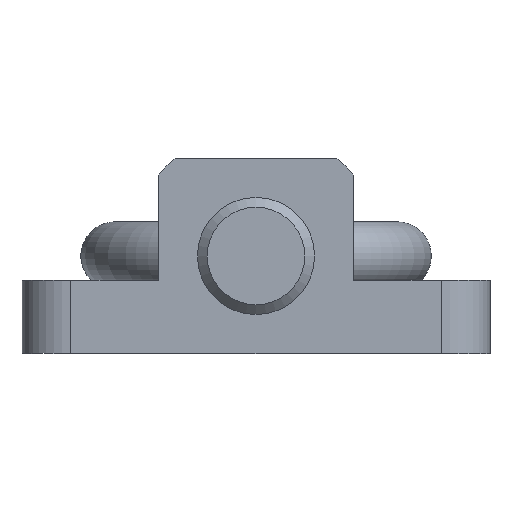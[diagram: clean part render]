
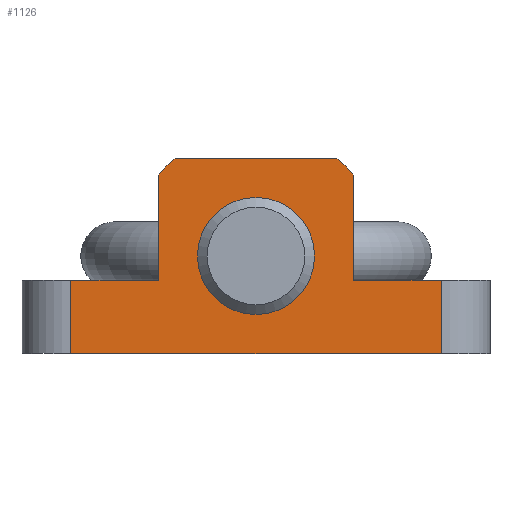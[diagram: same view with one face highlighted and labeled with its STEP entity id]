
A CAD part, front view. The second image highlights one B-rep face of the part: STEP entity #1126.
In plain terms, the highlighted planar face has unit normal (0, -1, 0).
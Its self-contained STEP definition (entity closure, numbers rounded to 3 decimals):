
#50=LINE('',#1777,#150);
#53=LINE('',#1787,#153);
#57=LINE('',#1799,#157);
#64=LINE('',#1821,#164);
#72=LINE('',#1849,#172);
#73=LINE('',#1851,#173);
#74=LINE('',#1852,#174);
#75=LINE('',#1854,#175);
#150=VECTOR('',#1409,1000.);
#153=VECTOR('',#1420,1000.);
#157=VECTOR('',#1432,1000.);
#164=VECTOR('',#1449,1000.);
#172=VECTOR('',#1473,1000.);
#173=VECTOR('',#1474,1000.);
#174=VECTOR('',#1475,1000.);
#175=VECTOR('',#1476,1000.);
#249=PLANE('',#1251);
#407=ORIENTED_EDGE('',*,*,#655,.F.);
#408=ORIENTED_EDGE('',*,*,#620,.F.);
#409=ORIENTED_EDGE('',*,*,#656,.F.);
#410=ORIENTED_EDGE('',*,*,#657,.T.);
#411=ORIENTED_EDGE('',*,*,#642,.F.);
#412=ORIENTED_EDGE('',*,*,#658,.F.);
#413=ORIENTED_EDGE('',*,*,#659,.F.);
#414=ORIENTED_EDGE('',*,*,#631,.F.);
#415=ORIENTED_EDGE('',*,*,#628,.F.);
#416=ORIENTED_EDGE('',*,*,#625,.F.);
#417=ORIENTED_EDGE('',*,*,#622,.F.);
#620=EDGE_CURVE('',#760,#761,#50,.T.);
#622=EDGE_CURVE('',#761,#762,#849,.T.);
#625=EDGE_CURVE('',#762,#764,#53,.T.);
#628=EDGE_CURVE('',#764,#766,#851,.T.);
#631=EDGE_CURVE('',#766,#768,#57,.T.);
#642=EDGE_CURVE('',#778,#779,#64,.T.);
#655=EDGE_CURVE('',#789,#789,#862,.T.);
#656=EDGE_CURVE('',#790,#760,#72,.T.);
#657=EDGE_CURVE('',#790,#779,#73,.T.);
#658=EDGE_CURVE('',#791,#778,#74,.T.);
#659=EDGE_CURVE('',#768,#791,#75,.T.);
#760=VERTEX_POINT('',#1776);
#761=VERTEX_POINT('',#1778);
#762=VERTEX_POINT('',#1782);
#764=VERTEX_POINT('',#1788);
#766=VERTEX_POINT('',#1794);
#768=VERTEX_POINT('',#1800);
#778=VERTEX_POINT('',#1822);
#779=VERTEX_POINT('',#1823);
#789=VERTEX_POINT('',#1848);
#790=VERTEX_POINT('',#1850);
#791=VERTEX_POINT('',#1853);
#849=CIRCLE('',#1233,13.);
#851=CIRCLE('',#1237,13.);
#862=CIRCLE('',#1252,6.);
#927=EDGE_LOOP('',(#407));
#928=EDGE_LOOP('',(#408,#409,#410,#411,#412,#413,#414,#415,#416,#417));
#1027=FACE_BOUND('',#927,.T.);
#1028=FACE_BOUND('',#928,.T.);
#1126=ADVANCED_FACE('',(#1027,#1028),#249,.F.);
#1233=AXIS2_PLACEMENT_3D('',#1781,#1413,#1414);
#1237=AXIS2_PLACEMENT_3D('',#1793,#1425,#1426);
#1251=AXIS2_PLACEMENT_3D('',#1846,#1469,#1470);
#1252=AXIS2_PLACEMENT_3D('',#1847,#1471,#1472);
#1409=DIRECTION('',(0.,0.,1.));
#1413=DIRECTION('',(0.,1.,0.));
#1414=DIRECTION('',(1.,0.,0.));
#1420=DIRECTION('',(1.,0.,0.));
#1425=DIRECTION('',(0.,1.,0.));
#1426=DIRECTION('',(1.,0.,0.));
#1432=DIRECTION('',(0.,0.,-1.));
#1449=DIRECTION('',(-1.,0.,0.));
#1469=DIRECTION('',(0.,1.,0.));
#1470=DIRECTION('',(0.,0.,1.));
#1471=DIRECTION('',(0.,-1.,0.));
#1472=DIRECTION('',(0.,0.,-1.));
#1473=DIRECTION('',(1.,0.,0.));
#1474=DIRECTION('',(0.,0.,-1.));
#1475=DIRECTION('',(0.,0.,-1.));
#1476=DIRECTION('',(1.,0.,0.));
#1776=CARTESIAN_POINT('',(-10.,0.,-2.5));
#1777=CARTESIAN_POINT('',(-10.,0.,-8.307));
#1778=CARTESIAN_POINT('',(-10.,0.,8.307));
#1781=CARTESIAN_POINT('',(0.,0.,0.));
#1782=CARTESIAN_POINT('',(-8.307,0.,10.));
#1787=CARTESIAN_POINT('',(-8.307,0.,10.));
#1788=CARTESIAN_POINT('',(8.307,0.,10.));
#1793=CARTESIAN_POINT('',(0.,0.,0.));
#1794=CARTESIAN_POINT('',(10.,0.,8.307));
#1799=CARTESIAN_POINT('',(10.,0.,8.307));
#1800=CARTESIAN_POINT('',(10.,0.,-2.5));
#1821=CARTESIAN_POINT('',(8.307,0.,-10.));
#1822=CARTESIAN_POINT('',(19.,0.,-10.));
#1823=CARTESIAN_POINT('',(-19.,0.,-10.));
#1846=CARTESIAN_POINT('',(0.,0.,0.));
#1847=CARTESIAN_POINT('',(0.,0.,0.));
#1848=CARTESIAN_POINT('',(0.,0.,-6.));
#1849=CARTESIAN_POINT('',(-19.,0.,-2.5));
#1850=CARTESIAN_POINT('',(-19.,0.,-2.5));
#1851=CARTESIAN_POINT('',(-19.,0.,-2.5));
#1852=CARTESIAN_POINT('',(19.,0.,-2.5));
#1853=CARTESIAN_POINT('',(19.,0.,-2.5));
#1854=CARTESIAN_POINT('',(-19.,0.,-2.5));
